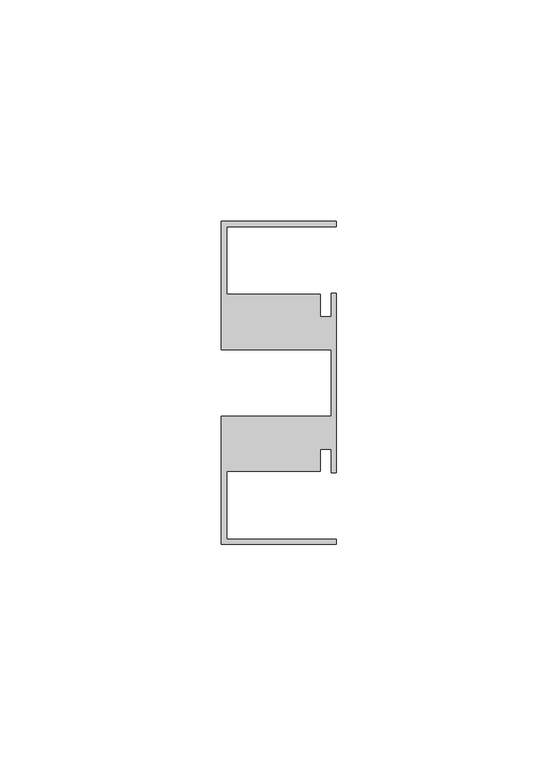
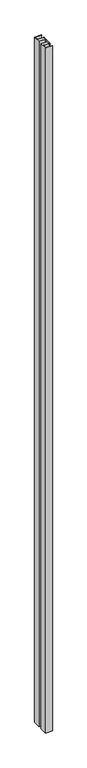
"""IFC4 building model written with IfcOpenShell, lengths in millimetres: member geometry, Прямоугольный импост : 9-AMG-1-Профиль 26Х73 Верх П."""

from ifc_helpers import new_model, si_unit, frame, origin, place, context, project, spatial, polyline, outline, extrude, source, transform, mapped, element, save


def member_36321a98(model_context):
    return source(origin(), model_context, "Body", "SweptSolid", [
        extrude(outline(polyline([(-26.0, -36.5), (-26.0, -7.5116043), (-1.2, -7.5116043), (-1.2, 7.5116043), (-26.0, 7.5116043), (-26.0, 36.5), (0.0, 36.5), (0.0, 35.3), (-24.8, 35.3), (-24.8, 20.0), (-3.7, 20.0), (-3.7, 14.95), (-1.2, 14.95), (-1.2, 20.3007529), (0.0, 20.3007529), (0.0, -20.3007529), (-1.2, -20.3007529), (-1.2, -14.95), (-3.7, -14.95), (-3.7, -20.0), (-24.8, -20.0), (-24.8, -35.3), (0.0, -35.3), (0.0, -36.5), (-26.0, -36.5)])), frame((0.0, 0.0, -2800.0), z_axis=(0.0, 0.0, 1.0), x_axis=(1.0, 0.0, 0.0)), (0.0, 0.0, 1.0), 2800.0),
    ])


if __name__ == "__main__":
    model = new_model("IFC4")
    model_context = context("Model", 3, world=origin())
    ifc_project = project(units=[si_unit("LENGTHUNIT", "METRE", prefix="MILLI")], contexts=[model_context])
    site = spatial("IfcSite", under=ifc_project)
    building = spatial("IfcBuilding", under=site)
    placement = place(None, origin())
    member_shape = member_36321a98(model_context)
    element("IfcMember", 1, ObjectType="Прямоугольный импост : 9-AMG-1-Профиль 26Х73 Верх П", at=placement, inside=building, context=model_context, shape_type="MappedRepresentation", body=[
        mapped(member_shape, transform((0.0, 0.0, 0.0), x_axis=(1.0, 0.0, 0.0), y_axis=(0.0, 1.0, 0.0), z_axis=(0.0, 0.0, 1.0))),
    ])
    save(model, "model.ifc")
